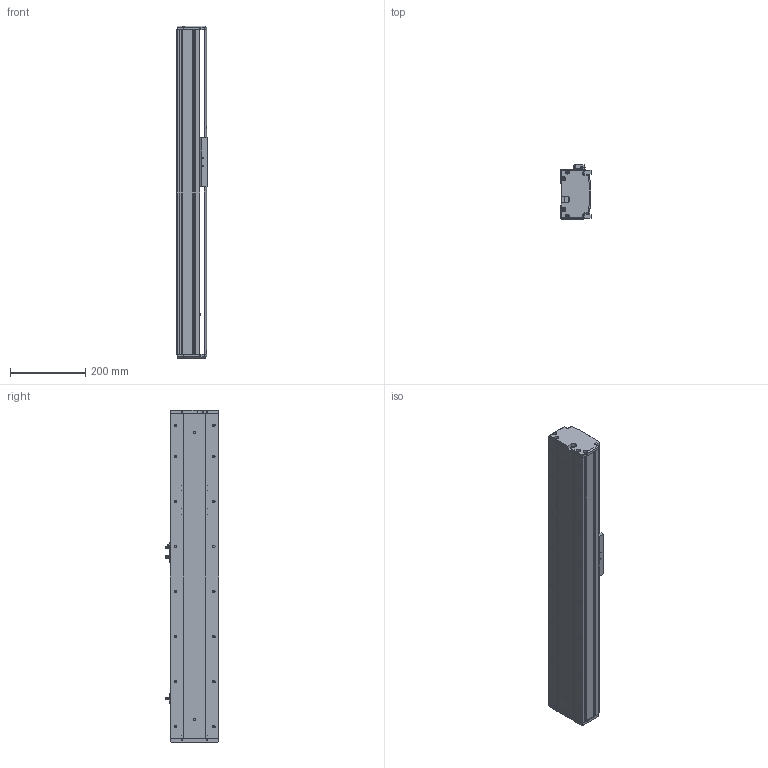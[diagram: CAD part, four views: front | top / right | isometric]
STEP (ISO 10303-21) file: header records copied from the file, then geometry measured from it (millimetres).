
FILE_DESCRIPTION (( 'STEP AP214' ), '1' );
FILE_NAME ('KSD130S-P2010-S400-M-CM.STEP', '2019-09-10T06:37:38', ( '微软用户' ), ( '微软中国' ), 'SwSTEP 2.0', 'SolidWorks 2014', '' );
FILE_SCHEMA (( 'AUTOMOTIVE_DESIGN' ));
Length unit declared in the file: millimetre
Products named in the file (8): 130宽滚珠丝杆安装板半封闭-内装-20丝杆; 130宽端盖半封闭-内装; 130宽底板半封闭丝杠内装-400行程; KSD130S-P2010-S400-M-CM; 130宽马达安装板半封闭-内装; U倰嫖萇EEㄜSX672; 覜茼え100遵圉猾敕; 130宽盖板半封闭丝杠内装-400行程
Assembly tree (9 placements, depth 2):
  KSD130S-P2010-S400-M-CM
    130宽底板半封闭丝杠内装-400行程
    130宽端盖半封闭-内装
    130宽滚珠丝杆安装板半封闭-内装-20丝杆
    130宽盖板半封闭丝杠内装-400行程
    覜茼え100遵圉猾敕
    U倰嫖萇EEㄜSX672  x3
    130宽马达安装板半封闭-内装
Bounding box: 80 x 143.7 x 885 mm (x, y, z)
Volume: 2775266.5 mm3; surface area: 844752.8 mm2
Topology: 9 solids, 9 shells, 1045 faces, 3024 edges, 1928 vertices
Faces by surface type: cylinder 464, plane 443, cone 138
Entity records: 33352 total; most frequent: CARTESIAN_POINT 6389, DIRECTION 4854, ORIENTED_EDGE 4768, EDGE_CURVE 2384, AXIS2_PLACEMENT_3D 1757, VERTEX_POINT 1552, LINE 1340, VECTOR 1340
